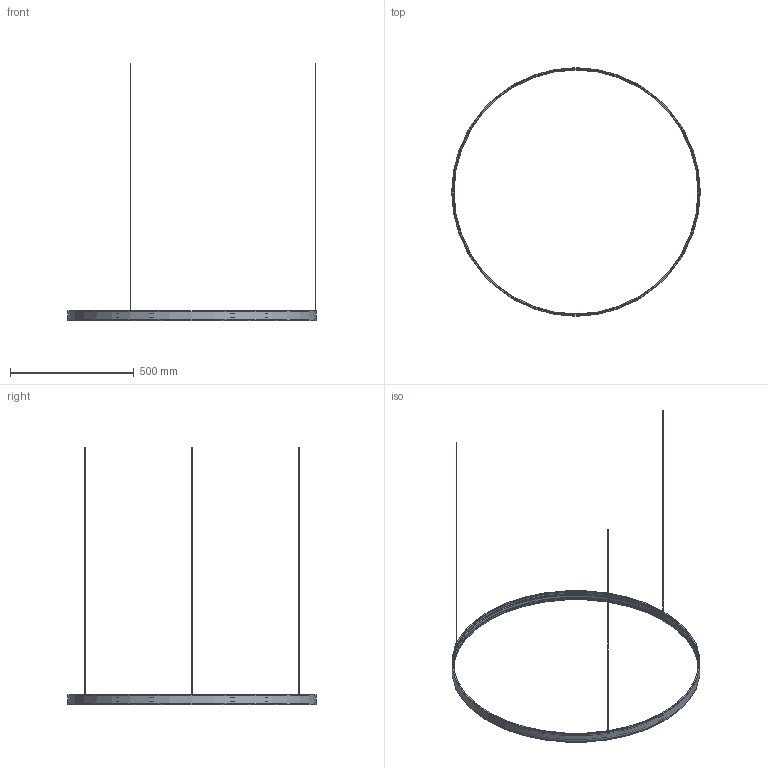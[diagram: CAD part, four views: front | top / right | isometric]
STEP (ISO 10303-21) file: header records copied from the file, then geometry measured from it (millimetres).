
FILE_DESCRIPTION (( 'STEP AP214' ), '1' );
FILE_NAME ('LOOP-C3997270.STEP', '2026-01-14T10:58:37', ( '' ), ( '' ), 'SwSTEP 2.0', 'SolidWorks 2025', '' );
FILE_SCHEMA (( 'AUTOMOTIVE_DESIGN' ));
Length unit declared in the file: millimetre
Products named in the file (1): LOOP-C3997270
Bounding box: 1006 x 1006 x 1040 mm (x, y, z)
Volume: 685199.6 mm3; surface area: 595059.9 mm2
Topology: 5 solids, 5 shells, 38 faces, 68 edges, 42 vertices
Faces by surface type: plane 18, cylinder 18, torus 2
Full cylindrical faces by diameter (mm): 1.6 x2, 3 x1, 3.2 x3, 987 x1, 992.9 x2, 993 x2, 996.3 x2, 996.5 x2, 997.5 x1, 1002.7 x1, 1006 x1
Entity records: 869 total; most frequent: DIRECTION 164, CARTESIAN_POINT 119, ORIENTED_EDGE 86, AXIS2_PLACEMENT_3D 82, EDGE_LOOP 70, FACE_OUTER_BOUND 58, CIRCLE 43, EDGE_CURVE 43
